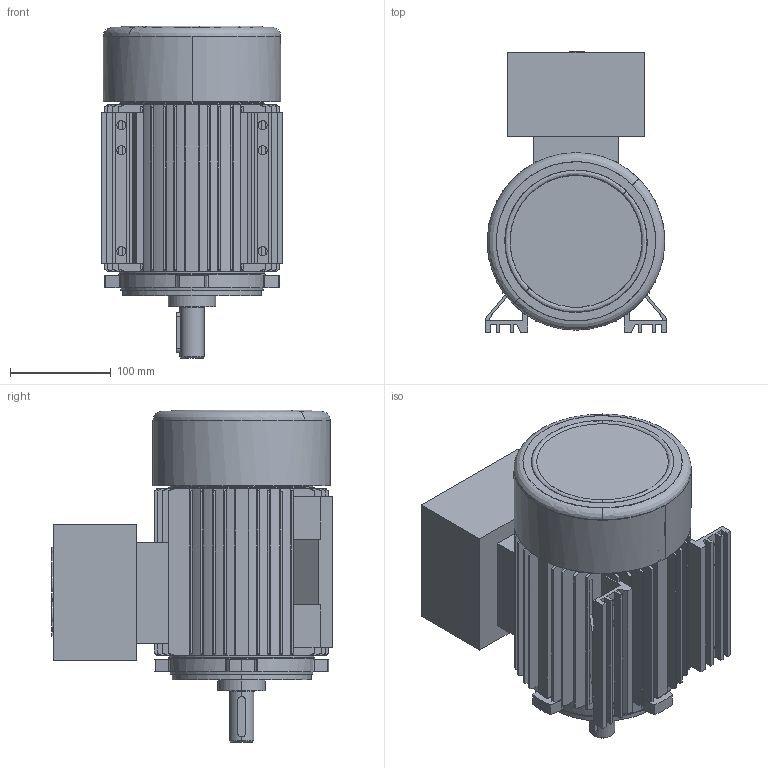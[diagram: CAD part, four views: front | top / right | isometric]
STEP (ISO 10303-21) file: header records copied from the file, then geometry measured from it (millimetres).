
FILE_DESCRIPTION (( 'STEP AP214' ), '1' );
FILE_NAME ('20.17499-A 5AT 90 B3 Exde STANDK.STEP', '2018-05-08T05:56:15', ( '' ), ( '' ), 'SwSTEP 2.0', 'SolidWorks 2017', '' );
FILE_SCHEMA (( 'AUTOMOTIVE_DESIGN' ));
Length unit declared in the file: millimetre
Products named in the file (1): 20.17499-A 5AT 90 B3 Exde STANDK
Bounding box: 180 x 278.5 x 329.3 mm (x, y, z)
Volume: 3684289.1 mm3; surface area: 725140.8 mm2
Topology: 4 solids, 4 shells, 718 faces, 1907 edges, 1241 vertices
Faces by surface type: plane 355, cylinder 210, cone 145, bspline 8
Entity records: 23215 total; most frequent: CARTESIAN_POINT 5227, ORIENTED_EDGE 3782, DIRECTION 3684, EDGE_CURVE 1891, AXIS2_PLACEMENT_3D 1314, VERTEX_POINT 1241, VECTOR 1056, LINE 1056
